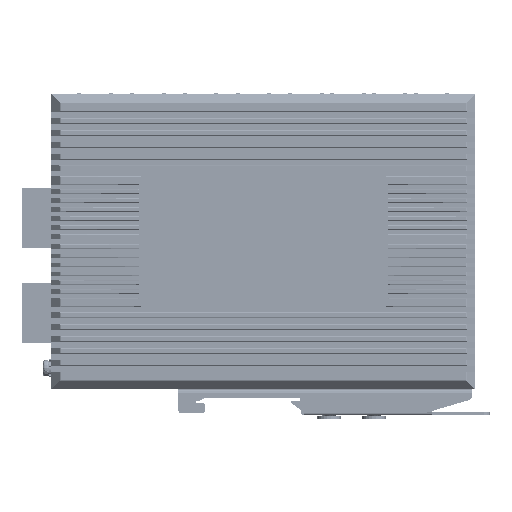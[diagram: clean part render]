
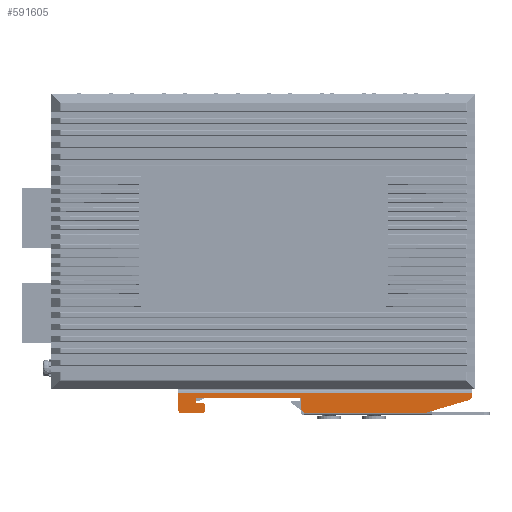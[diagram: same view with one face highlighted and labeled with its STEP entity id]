
A CAD part, front view. The second image highlights one B-rep face of the part: STEP entity #591605.
In plain terms, the highlighted planar face has unit normal (0, -1, 0) as drawn and (1, 0, 0) by its records, which use the part's own axes.
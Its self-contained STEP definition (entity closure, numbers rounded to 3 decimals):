
#589232=DIRECTION('',(0.,0.,-1.));
#589233=VECTOR('',#589232,98.5);
#589234=CARTESIAN_POINT('',(27.,0.1,49.25));
#589235=LINE('',#589234,#589233);
#589250=DIRECTION('',(0.,-1.,0.));
#589251=VECTOR('',#589250,0.424);
#589252=CARTESIAN_POINT('',(27.,0.524,49.25));
#589253=LINE('',#589252,#589251);
#589254=CARTESIAN_POINT('',(27.,0.524,47.25));
#589255=DIRECTION('',(-1.,0.,0.));
#589256=DIRECTION('',(0.,0.,1.));
#589257=AXIS2_PLACEMENT_3D('',#589254,#589255,#589256);
#589259=DIRECTION('',(0.,0.282,-0.959));
#589260=VECTOR('',#589259,15.441);
#589261=CARTESIAN_POINT('',(27.,2.442,47.814));
#589262=LINE('',#589261,#589260);
#589263=CARTESIAN_POINT('',(27.,4.8,-6.25));
#589264=DIRECTION('',(-1.,0.,0.));
#589265=DIRECTION('',(0.,1.,0.));
#589266=AXIS2_PLACEMENT_3D('',#589263,#589264,#589265);
#589268=DIRECTION('',(0.,-1.,0.));
#589269=VECTOR('',#589268,3.);
#589270=CARTESIAN_POINT('',(27.,4.8,-8.25));
#589271=LINE('',#589270,#589269);
#589272=DIRECTION('',(0.,0.,-1.));
#589273=VECTOR('',#589272,35.);
#589274=CARTESIAN_POINT('',(27.,1.8,-8.25));
#589275=LINE('',#589274,#589273);
#589276=DIRECTION('',(0.,1.,0.));
#589277=VECTOR('',#589276,1.5);
#589278=CARTESIAN_POINT('',(27.,1.8,-43.25));
#589279=LINE('',#589278,#589277);
#589280=DIRECTION('',(0.,0.,1.));
#589281=VECTOR('',#589280,2.);
#589282=CARTESIAN_POINT('',(27.,3.3,-43.25));
#589283=LINE('',#589282,#589281);
#589284=CARTESIAN_POINT('',(27.,4.3,-41.25));
#589285=DIRECTION('',(-1.,0.,0.));
#589286=DIRECTION('',(0.,-1.,0.));
#589287=AXIS2_PLACEMENT_3D('',#589284,#589285,#589286);
#589289=DIRECTION('',(0.,1.,0.));
#589290=VECTOR('',#589289,1.5);
#589291=CARTESIAN_POINT('',(27.,4.3,-40.25));
#589292=LINE('',#589291,#589290);
#589293=CARTESIAN_POINT('',(27.,5.8,-41.25));
#589294=DIRECTION('',(-1.,0.,0.));
#589295=DIRECTION('',(0.,0.,1.));
#589296=AXIS2_PLACEMENT_3D('',#589293,#589294,#589295);
#589298=CARTESIAN_POINT('',(27.,5.8,-48.25));
#589299=DIRECTION('',(-1.,0.,0.));
#589300=DIRECTION('',(0.,1.,0.));
#589301=AXIS2_PLACEMENT_3D('',#589298,#589299,#589300);
#589307=DIRECTION('',(0.,1.,0.));
#589308=VECTOR('',#589307,5.7);
#589309=CARTESIAN_POINT('',(27.,0.1,-49.25));
#589310=LINE('',#589309,#589308);
#589356=DIRECTION('',(0.,0.,1.));
#589357=VECTOR('',#589356,7.);
#589358=CARTESIAN_POINT('',(27.,6.8,-48.25));
#589359=LINE('',#589358,#589357);
#589416=DIRECTION('',(0.,0.,1.));
#589417=VECTOR('',#589416,39.25);
#589418=CARTESIAN_POINT('',(27.,6.8,-6.25));
#589419=LINE('',#589418,#589417);
#590954=CARTESIAN_POINT('',(27.,0.1,49.25));
#590955=VERTEX_POINT('',#590954);
#590956=CARTESIAN_POINT('',(27.,0.1,-49.25));
#590957=VERTEX_POINT('',#590956);
#590962=CARTESIAN_POINT('',(27.,0.524,49.25));
#590963=VERTEX_POINT('',#590962);
#590966=CARTESIAN_POINT('',(27.,5.8,-49.25));
#590967=VERTEX_POINT('',#590966);
#590968=CARTESIAN_POINT('',(27.,2.443,47.813));
#590969=VERTEX_POINT('',#590968);
#590970=CARTESIAN_POINT('',(27.,6.8,33.));
#590971=VERTEX_POINT('',#590970);
#590972=CARTESIAN_POINT('',(27.,6.8,-6.25));
#590973=VERTEX_POINT('',#590972);
#590974=CARTESIAN_POINT('',(27.,4.8,-8.25));
#590975=VERTEX_POINT('',#590974);
#590976=CARTESIAN_POINT('',(27.,1.8,-8.25));
#590977=VERTEX_POINT('',#590976);
#590978=CARTESIAN_POINT('',(27.,1.8,-43.25));
#590979=VERTEX_POINT('',#590978);
#590980=CARTESIAN_POINT('',(27.,3.3,-43.25));
#590981=VERTEX_POINT('',#590980);
#590982=CARTESIAN_POINT('',(27.,3.3,-41.25));
#590983=VERTEX_POINT('',#590982);
#590984=CARTESIAN_POINT('',(27.,4.3,-40.25));
#590985=VERTEX_POINT('',#590984);
#590986=CARTESIAN_POINT('',(27.,5.8,-40.25));
#590987=VERTEX_POINT('',#590986);
#590988=CARTESIAN_POINT('',(27.,6.8,-41.25));
#590989=VERTEX_POINT('',#590988);
#590990=CARTESIAN_POINT('',(27.,6.8,-48.25));
#590991=VERTEX_POINT('',#590990);
#591568=CARTESIAN_POINT('',(27.,0.,0.));
#591569=DIRECTION('',(1.,0.,0.));
#591570=DIRECTION('',(0.,-1.,0.));
#591571=AXIS2_PLACEMENT_3D('',#591568,#591569,#591570);
#591572=PLANE('',#591571);
#591574=ORIENTED_EDGE('',*,*,#591573,.F.);
#591575=ORIENTED_EDGE('',*,*,#591531,.F.);
#591576=ORIENTED_EDGE('',*,*,#591558,.F.);
#591578=ORIENTED_EDGE('',*,*,#591577,.T.);
#591580=ORIENTED_EDGE('',*,*,#591579,.T.);
#591582=ORIENTED_EDGE('',*,*,#591581,.F.);
#591584=ORIENTED_EDGE('',*,*,#591583,.T.);
#591586=ORIENTED_EDGE('',*,*,#591585,.T.);
#591588=ORIENTED_EDGE('',*,*,#591587,.T.);
#591590=ORIENTED_EDGE('',*,*,#591589,.T.);
#591592=ORIENTED_EDGE('',*,*,#591591,.T.);
#591594=ORIENTED_EDGE('',*,*,#591593,.T.);
#591596=ORIENTED_EDGE('',*,*,#591595,.T.);
#591598=ORIENTED_EDGE('',*,*,#591597,.T.);
#591600=ORIENTED_EDGE('',*,*,#591599,.F.);
#591602=ORIENTED_EDGE('',*,*,#591601,.T.);
#591603=EDGE_LOOP('',(#591574,#591575,#591576,#591578,#591580,#591582,#591584,
#591586,#591588,#591590,#591592,#591594,#591596,#591598,#591600,#591602));
#591604=FACE_OUTER_BOUND('',#591603,.F.);
#589258=CIRCLE('',#589257,2.);
#589267=CIRCLE('',#589266,2.);
#589288=CIRCLE('',#589287,1.);
#589297=CIRCLE('',#589296,1.);
#589302=CIRCLE('',#589301,1.);
#591531=EDGE_CURVE('',#590955,#590957,#589235,.T.);
#591558=EDGE_CURVE('',#590963,#590955,#589253,.T.);
#591573=EDGE_CURVE('',#590957,#590967,#589310,.T.);
#591577=EDGE_CURVE('',#590963,#590969,#589258,.T.);
#591579=EDGE_CURVE('',#590969,#590971,#589262,.T.);
#591581=EDGE_CURVE('',#590973,#590971,#589419,.T.);
#591583=EDGE_CURVE('',#590973,#590975,#589267,.T.);
#591585=EDGE_CURVE('',#590975,#590977,#589271,.T.);
#591587=EDGE_CURVE('',#590977,#590979,#589275,.T.);
#591589=EDGE_CURVE('',#590979,#590981,#589279,.T.);
#591591=EDGE_CURVE('',#590981,#590983,#589283,.T.);
#591593=EDGE_CURVE('',#590983,#590985,#589288,.T.);
#591595=EDGE_CURVE('',#590985,#590987,#589292,.T.);
#591597=EDGE_CURVE('',#590987,#590989,#589297,.T.);
#591599=EDGE_CURVE('',#590991,#590989,#589359,.T.);
#591601=EDGE_CURVE('',#590991,#590967,#589302,.T.);
#591605=ADVANCED_FACE('',(#591604),#591572,.T.);
